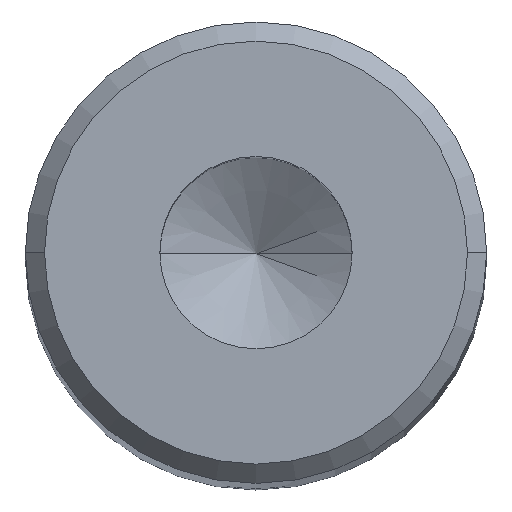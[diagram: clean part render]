
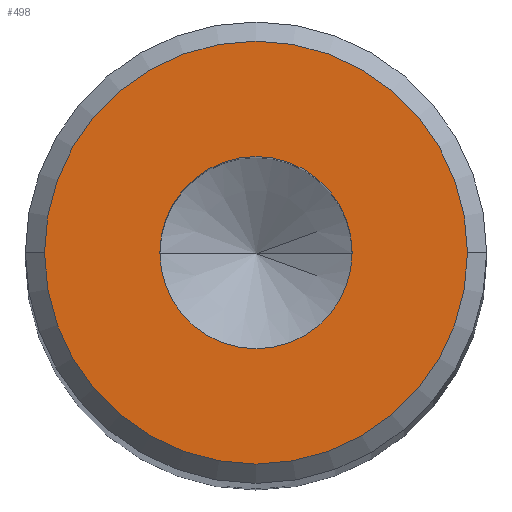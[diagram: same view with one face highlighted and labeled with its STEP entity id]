
A CAD part, top view. The second image highlights one B-rep face of the part: STEP entity #498.
In plain terms, the highlighted planar face has unit normal (0, 0, 1).
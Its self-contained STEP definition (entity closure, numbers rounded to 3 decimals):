
#23 = EDGE_CURVE ( 'NONE', #129, #484, #557, .T. ) ;
#29 = AXIS2_PLACEMENT_3D ( 'NONE', #333, #57, #63 ) ;
#43 = AXIS2_PLACEMENT_3D ( 'NONE', #171, #456, #452 ) ;
#57 = DIRECTION ( 'NONE',  ( 0., 0., 1. ) ) ;
#63 = DIRECTION ( 'NONE',  ( 1., 0., 0. ) ) ;
#72 = CARTESIAN_POINT ( 'NONE',  ( 5.5, 0., 100. ) ) ;
#106 = DIRECTION ( 'NONE',  ( 0., 0., 1. ) ) ;
#129 = VERTEX_POINT ( 'NONE', #601 ) ;
#144 = CIRCLE ( 'NONE', #584, 2.5 ) ;
#162 = CIRCLE ( 'NONE', #322, 5.5 ) ;
#171 = CARTESIAN_POINT ( 'NONE',  ( 0., 0., 100. ) ) ;
#194 = FACE_OUTER_BOUND ( 'NONE', #439, .T. ) ;
#247 = CARTESIAN_POINT ( 'NONE',  ( -5.5, 0., 100. ) ) ;
#260 = ORIENTED_EDGE ( 'NONE', *, *, #271, .T. ) ;
#264 = DIRECTION ( 'NONE',  ( 1., 0., 0. ) ) ;
#271 = EDGE_CURVE ( 'NONE', #573, #450, #162, .T. ) ;
#322 = AXIS2_PLACEMENT_3D ( 'NONE', #423, #106, #328 ) ;
#328 = DIRECTION ( 'NONE',  ( 1., 0., 0. ) ) ;
#333 = CARTESIAN_POINT ( 'NONE',  ( 0., 0., 100. ) ) ;
#342 = EDGE_CURVE ( 'NONE', #450, #573, #536, .T. ) ;
#349 = DIRECTION ( 'NONE',  ( 0., 0., 1. ) ) ;
#368 = EDGE_LOOP ( 'NONE', ( #451, #380 ) ) ;
#380 = ORIENTED_EDGE ( 'NONE', *, *, #23, .F. ) ;
#391 = CARTESIAN_POINT ( 'NONE',  ( 0., 0., 100. ) ) ;
#407 = AXIS2_PLACEMENT_3D ( 'NONE', #500, #349, #492 ) ;
#423 = CARTESIAN_POINT ( 'NONE',  ( 0., 0., 100. ) ) ;
#439 = EDGE_LOOP ( 'NONE', ( #574, #260 ) ) ;
#450 = VERTEX_POINT ( 'NONE', #247 ) ;
#451 = ORIENTED_EDGE ( 'NONE', *, *, #551, .F. ) ;
#452 = DIRECTION ( 'NONE',  ( 1., 0., 0. ) ) ;
#456 = DIRECTION ( 'NONE',  ( 0., 0., 1. ) ) ;
#484 = VERTEX_POINT ( 'NONE', #575 ) ;
#492 = DIRECTION ( 'NONE',  ( 1., 0., 0. ) ) ;
#498 = ADVANCED_FACE ( 'NONE', ( #549, #194 ), #591, .T. ) ;
#500 = CARTESIAN_POINT ( 'NONE',  ( 0., 0., 100. ) ) ;
#536 = CIRCLE ( 'NONE', #29, 5.5 ) ;
#549 = FACE_BOUND ( 'NONE', #368, .T. ) ;
#551 = EDGE_CURVE ( 'NONE', #484, #129, #144, .T. ) ;
#557 = CIRCLE ( 'NONE', #43, 2.5 ) ;
#573 = VERTEX_POINT ( 'NONE', #72 ) ;
#574 = ORIENTED_EDGE ( 'NONE', *, *, #342, .T. ) ;
#575 = CARTESIAN_POINT ( 'NONE',  ( 2.5, 0., 100. ) ) ;
#584 = AXIS2_PLACEMENT_3D ( 'NONE', #391, #598, #264 ) ;
#591 = PLANE ( 'NONE',  #407 ) ;
#598 = DIRECTION ( 'NONE',  ( 0., 0., 1. ) ) ;
#601 = CARTESIAN_POINT ( 'NONE',  ( -2.5, 0., 100. ) ) ;
